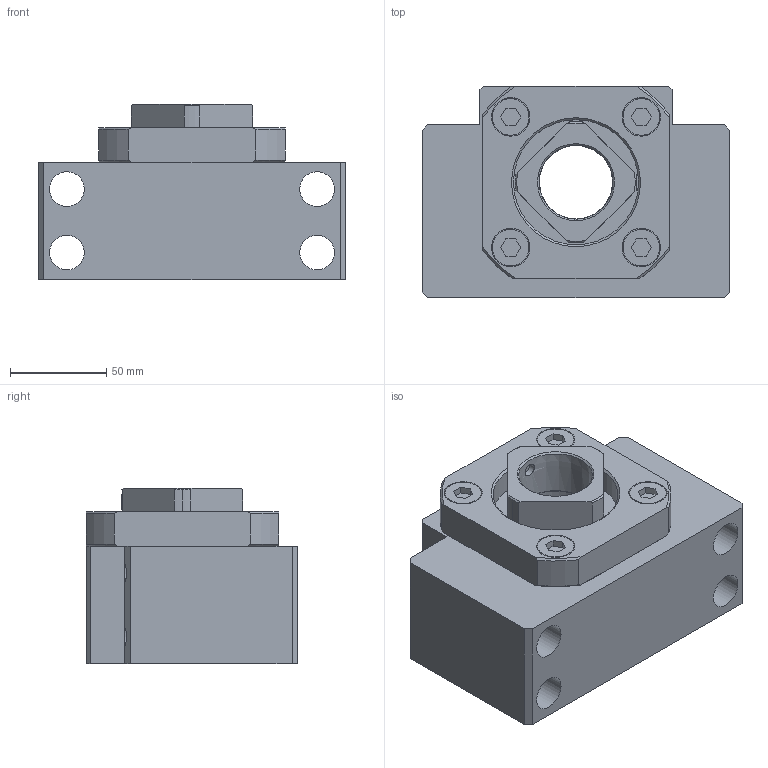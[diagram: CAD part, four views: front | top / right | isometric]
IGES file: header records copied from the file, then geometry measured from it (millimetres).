
Start section: Data from Parasolid IGES Translator 26.0.171, Copyright(c) 2006 Siemens PLM Software. All Rights Reserved.
Global section: file name: BK40Yes.igs; native system: By Siemens PLM Incorporated; preprocessor: XPlus GENERIC/IGES 26.0.171; author: Noname; organization: Noname; date: 20250611.070718; units: millimetre
Bounding box: 160 x 110 x 91 mm (x, y, z)
Surface area: 151870.3 mm2 (no closed solid volume)
Topology: 0 solids, 0 shells, 163 faces, 800 edges, 759 vertices
Faces by surface type: extrusion 97, revolution 66
